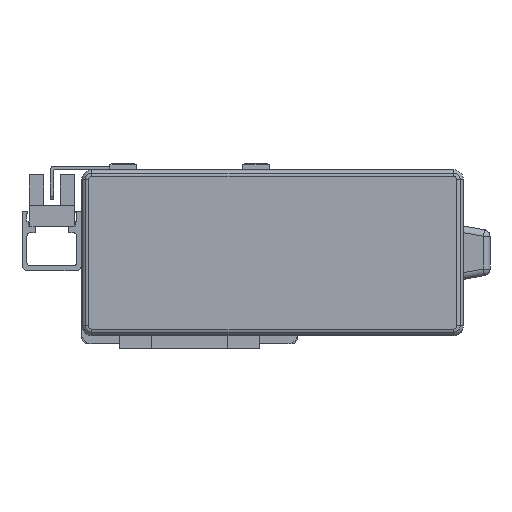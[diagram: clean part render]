
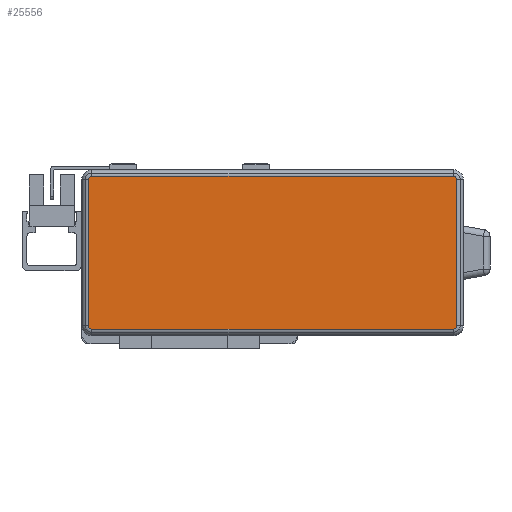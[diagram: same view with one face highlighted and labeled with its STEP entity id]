
A CAD part, left-side view. The second image highlights one B-rep face of the part: STEP entity #25556.
In plain terms, the highlighted planar face has unit normal (-1, 0, 0) as drawn and (0, 0, 1) by its records, which use the part's own axes.
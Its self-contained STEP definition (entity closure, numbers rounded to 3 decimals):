
#105 = ORIENTED_EDGE ( 'NONE', *, *, #169, .T. ) ;
#137 = CARTESIAN_POINT ( 'NONE',  ( 54.5, -23., 40. ) ) ;
#169 = EDGE_CURVE ( 'NONE', #15019, #7784, #22264, .T. ) ;
#659 = LINE ( 'NONE', #4681, #5111 ) ;
#918 = CARTESIAN_POINT ( 'NONE',  ( 54.5, 22., 40. ) ) ;
#1072 = ORIENTED_EDGE ( 'NONE', *, *, #17152, .T. ) ;
#1127 = CARTESIAN_POINT ( 'NONE',  ( 54.5, -22., 40. ) ) ;
#1287 = CIRCLE ( 'NONE', #17448, 1. ) ;
#2585 = DIRECTION ( 'NONE',  ( 1., 0., 0. ) ) ;
#2697 = VECTOR ( 'NONE', #5427, 1000. ) ;
#2769 = VERTEX_POINT ( 'NONE', #13210 ) ;
#3051 = AXIS2_PLACEMENT_3D ( 'NONE', #25779, #12796, #27967 ) ;
#3304 = DIRECTION ( 'NONE',  ( -1., 0., 0. ) ) ;
#3308 = CARTESIAN_POINT ( 'NONE',  ( 0., 0., 40. ) ) ;
#3618 = CARTESIAN_POINT ( 'NONE',  ( 55.5, -22., 40. ) ) ;
#4103 = VERTEX_POINT ( 'NONE', #8015 ) ;
#4124 = CIRCLE ( 'NONE', #3051, 1. ) ;
#4139 = EDGE_CURVE ( 'NONE', #14168, #4103, #27571, .T. ) ;
#4681 = CARTESIAN_POINT ( 'NONE',  ( 0., -23., 40. ) ) ;
#5111 = VECTOR ( 'NONE', #2585, 1000. ) ;
#5427 = DIRECTION ( 'NONE',  ( 0., -1., 0. ) ) ;
#6364 = EDGE_CURVE ( 'NONE', #23236, #15019, #8132, .T. ) ;
#7784 = VERTEX_POINT ( 'NONE', #7910 ) ;
#7910 = CARTESIAN_POINT ( 'NONE',  ( 54.5, 23., 40. ) ) ;
#8015 = CARTESIAN_POINT ( 'NONE',  ( -54.5, -23., 40. ) ) ;
#8132 = LINE ( 'NONE', #24397, #19674 ) ;
#8185 = CARTESIAN_POINT ( 'NONE',  ( -54.5, -22., 40. ) ) ;
#8295 = DIRECTION ( 'NONE',  ( -1., 0., 0. ) ) ;
#9103 = DIRECTION ( 'NONE',  ( 0., 1., 0. ) ) ;
#9303 = VECTOR ( 'NONE', #8295, 1000. ) ;
#10338 = EDGE_CURVE ( 'NONE', #2769, #14168, #24479, .T. ) ;
#10388 = DIRECTION ( 'NONE',  ( -1., 0., 0. ) ) ;
#11707 = ORIENTED_EDGE ( 'NONE', *, *, #22965, .T. ) ;
#12796 = DIRECTION ( 'NONE',  ( 0., 0., 1. ) ) ;
#12934 = CARTESIAN_POINT ( 'NONE',  ( 55.5, 22., 40. ) ) ;
#13162 = AXIS2_PLACEMENT_3D ( 'NONE', #918, #16151, #14657 ) ;
#13210 = CARTESIAN_POINT ( 'NONE',  ( -55.5, 22., 40. ) ) ;
#13649 = AXIS2_PLACEMENT_3D ( 'NONE', #3308, #16353, #22918 ) ;
#14168 = VERTEX_POINT ( 'NONE', #26458 ) ;
#14228 = ORIENTED_EDGE ( 'NONE', *, *, #10338, .T. ) ;
#14657 = DIRECTION ( 'NONE',  ( -1., 0., 0. ) ) ;
#14847 = CARTESIAN_POINT ( 'NONE',  ( 0., 23., 40. ) ) ;
#15019 = VERTEX_POINT ( 'NONE', #12934 ) ;
#15410 = CARTESIAN_POINT ( 'NONE',  ( -54.5, 23., 40. ) ) ;
#15511 = EDGE_LOOP ( 'NONE', ( #11707, #1072, #19683, #105, #26685, #22609, #14228, #19537 ) ) ;
#16102 = EDGE_CURVE ( 'NONE', #26358, #2769, #4124, .T. ) ;
#16151 = DIRECTION ( 'NONE',  ( 0., 0., 1. ) ) ;
#16351 = DIRECTION ( 'NONE',  ( 0., 0., 1. ) ) ;
#16353 = DIRECTION ( 'NONE',  ( 0., 0., -1. ) ) ;
#17152 = EDGE_CURVE ( 'NONE', #18963, #23236, #1287, .T. ) ;
#17448 = AXIS2_PLACEMENT_3D ( 'NONE', #1127, #16351, #3304 ) ;
#18740 = FACE_OUTER_BOUND ( 'NONE', #15511, .T. ) ;
#18963 = VERTEX_POINT ( 'NONE', #137 ) ;
#19537 = ORIENTED_EDGE ( 'NONE', *, *, #4139, .T. ) ;
#19674 = VECTOR ( 'NONE', #9103, 1000. ) ;
#19683 = ORIENTED_EDGE ( 'NONE', *, *, #6364, .T. ) ;
#20614 = CARTESIAN_POINT ( 'NONE',  ( -55.5, 0., 40. ) ) ;
#20700 = PLANE ( 'NONE',  #13649 ) ;
#20792 = EDGE_CURVE ( 'NONE', #7784, #26358, #20848, .T. ) ;
#20848 = LINE ( 'NONE', #14847, #9303 ) ;
#22264 = CIRCLE ( 'NONE', #13162, 1. ) ;
#22555 = AXIS2_PLACEMENT_3D ( 'NONE', #8185, #23383, #10388 ) ;
#22609 = ORIENTED_EDGE ( 'NONE', *, *, #16102, .T. ) ;
#22918 = DIRECTION ( 'NONE',  ( -1., 0., 0. ) ) ;
#22965 = EDGE_CURVE ( 'NONE', #4103, #18963, #659, .T. ) ;
#23236 = VERTEX_POINT ( 'NONE', #3618 ) ;
#23383 = DIRECTION ( 'NONE',  ( 0., 0., 1. ) ) ;
#24397 = CARTESIAN_POINT ( 'NONE',  ( 55.5, 0., 40. ) ) ;
#24479 = LINE ( 'NONE', #20614, #2697 ) ;
#25556 = ADVANCED_FACE ( 'NONE', ( #18740 ), #20700, .F. ) ;
#25779 = CARTESIAN_POINT ( 'NONE',  ( -54.5, 22., 40. ) ) ;
#26358 = VERTEX_POINT ( 'NONE', #15410 ) ;
#26458 = CARTESIAN_POINT ( 'NONE',  ( -55.5, -22., 40. ) ) ;
#26685 = ORIENTED_EDGE ( 'NONE', *, *, #20792, .T. ) ;
#27571 = CIRCLE ( 'NONE', #22555, 1. ) ;
#27967 = DIRECTION ( 'NONE',  ( -1., 0., 0. ) ) ;
